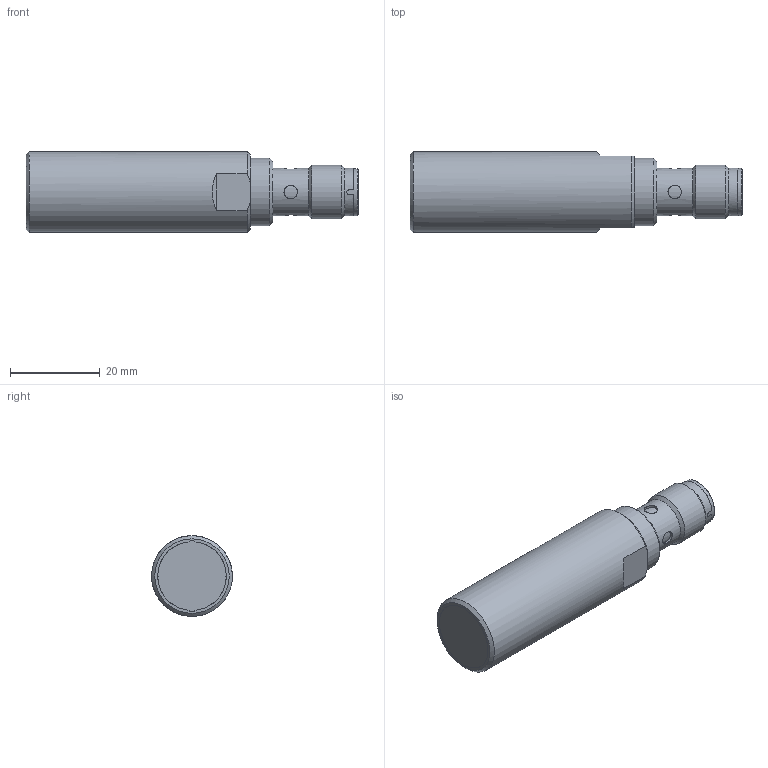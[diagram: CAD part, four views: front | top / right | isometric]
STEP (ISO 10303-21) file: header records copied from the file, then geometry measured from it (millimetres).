
FILE_DESCRIPTION(/* description */ (''),/* implementation_level */ '2;1');
FILE_NAME(/* name */ 'Z:\PG_031_033_365_369\031\progetti\_assemblies 3D\Contorno semplificato\ICB18 Thread 30 50\icb18_flush_connector_50mm_asm.stp',/* time_stamp */ '2015-05-07T15:04:37+02:00',/* author */ ('ddecol'),/* organization */ (''),/* preprocessor_version */ 'ST-DEVELOPER v15.6',/* originating_system */ 'Autodesk Inventor 2015',/* authorisation */ '');
FILE_SCHEMA (('AUTOMOTIVE_DESIGN { 1 0 10303 214 3 1 1 }'));
Length unit declared in the file: millimetre
Products named in the file (1): icb18_flush_connector_50mm_asm
Bounding box: 74 x 17.99 x 17.97 mm (x, y, z)
Surface area: 5427 mm2 (no closed solid volume)
Topology: 0 solids, 8 shells, 51 faces, 238 edges, 190 vertices
Faces by surface type: cylinder 20, plane 18, cone 6, sphere 4, torus 2, bspline 1
Full cylindrical faces by diameter (mm): 1 x4, 3 x4, 9.5 x2, 10.5 x1, 10.6 x2, 12 x1, 15.1 x1, 18 x1
Entity records: 3018 total; most frequent: CARTESIAN_POINT 1352, DIRECTION 320, ORIENTED_EDGE 253, EDGE_CURVE 184, VERTEX_POINT 164, AXIS2_PLACEMENT_3D 133, EDGE_LOOP 89, CIRCLE 72
